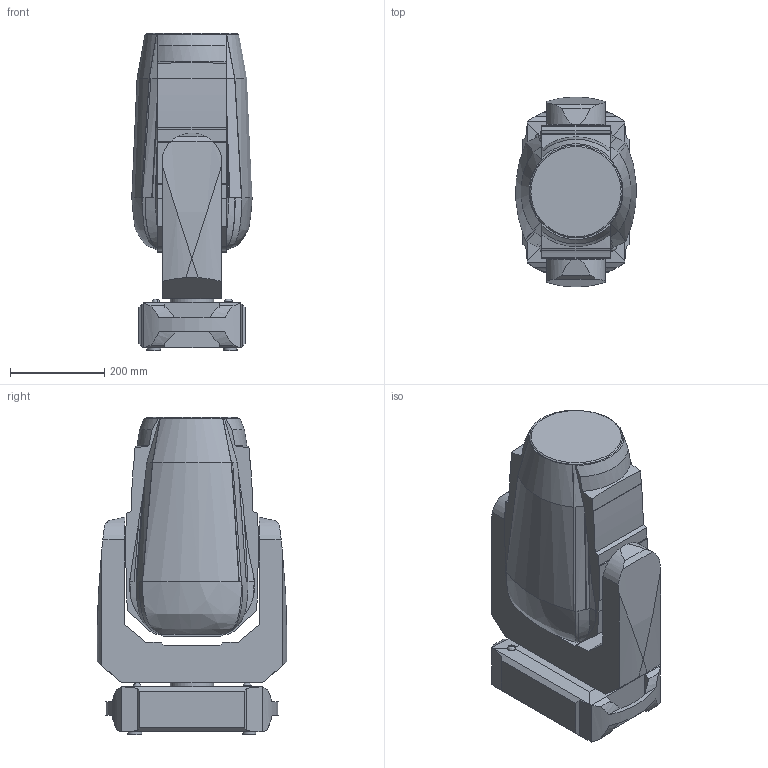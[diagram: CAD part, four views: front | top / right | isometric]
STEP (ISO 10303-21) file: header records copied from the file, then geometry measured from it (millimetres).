
FILE_DESCRIPTION(/* description */ ('Unknown'),/* implementation_level */ '2;1');
FILE_NAME(/* name */ '3D-GigaPointe',/* time_stamp */ '2026-01-08T08:47:13+01:00',/* author */ ('Unknown'),/* organization */ ('Unknown'),/* preprocessor_version */ 'ST-DEVELOPER v20',/* originating_system */ 'Solid Edge',/* authorisation */ 'Unknown');
FILE_SCHEMA (('AUTOMOTIVE_DESIGN {1 0 10303 214 3 1 1}'));
Length unit declared in the file: millimetre
Products named in the file (4): 3D-GigaPointe; GigaPointe-Base; GigaPointe-Arm; GigaPointe-Head
Assembly tree (3 placements, depth 2):
  3D-GigaPointe
    GigaPointe-Base
    GigaPointe-Arm
    GigaPointe-Head
Bounding box: 256.1 x 403.69 x 674.15 mm (x, y, z)
Volume: 38965508.4 mm3; surface area: 1131597.7 mm2
Topology: 3 solids, 3 shells, 207 faces, 572 edges, 376 vertices
Faces by surface type: plane 83, bspline 74, cylinder 41, cone 7, torus 2
Full cylindrical faces by diameter (mm): 17 x1, 27.261 x2, 29.966 x2, 49.847 x2, 49.99 x1, 79.2 x1, 91.8 x1, 197.005 x1
Entity records: 8139 total; most frequent: CARTESIAN_POINT 3249, ORIENTED_EDGE 1102, DIRECTION 800, EDGE_CURVE 551, VERTEX_POINT 368, LINE 286, VECTOR 286, AXIS2_PLACEMENT_3D 257
